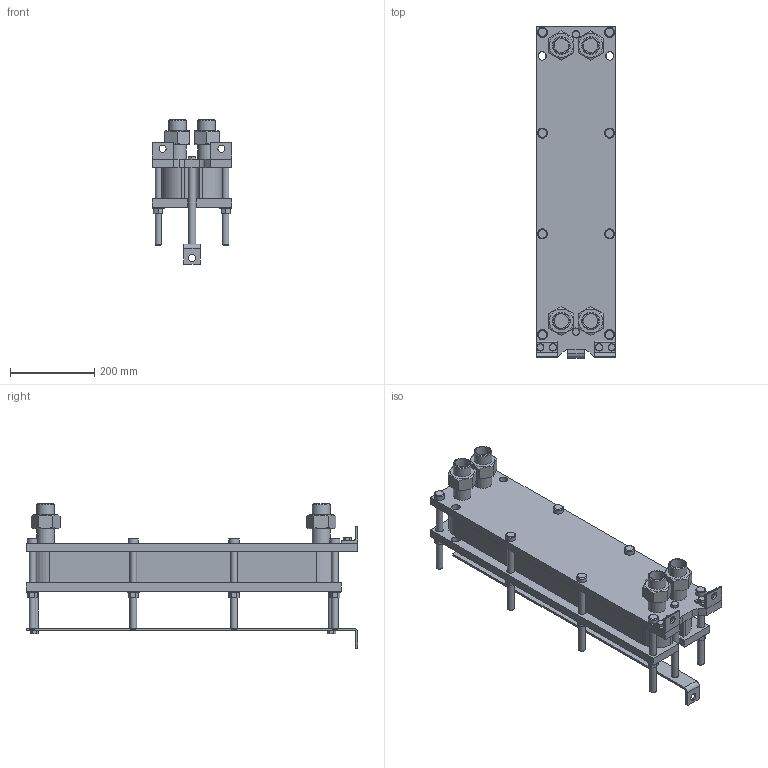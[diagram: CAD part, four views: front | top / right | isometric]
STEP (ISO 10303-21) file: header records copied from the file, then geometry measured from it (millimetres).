
FILE_DESCRIPTION(/* description */ (''),/* implementation_level */ '2;1');
FILE_NAME(/* name */ 'C:\Users\zhuro\Desktop\ENCO\TO\ЭН-008\ЭН-0,5-008-24-1.stp',/* time_stamp */ '2022-06-06T10:46:47+03:00',/* author */ ('zhuro'),/* organization */ (''),/* preprocessor_version */ 'ST-DEVELOPER v18.1',/* originating_system */ 'Autodesk Inventor 2022',/* authorisation */ '');
FILE_SCHEMA (('AUTOMOTIVE_DESIGN { 1 0 10303 214 3 1 1 }'));
Length unit declared in the file: millimetre
Products named in the file (1): ЭН-0,5-008-24-1
Bounding box: 190 x 790 x 344.2 mm (x, y, z)
Volume: 14234700.4 mm3; surface area: 1378653.7 mm2
Topology: 40 solids, 40 shells, 428 faces, 924 edges, 606 vertices
Faces by surface type: plane 273, cylinder 109, cone 40, torus 6
Full cylindrical faces by diameter (mm): 12 x6, 14 x2, 16 x20, 17 x8, 18 x19, 20 x5, 24 x8, 28 x8, 34.3 x8, 42.3 x8
Entity records: 15843 total; most frequent: CARTESIAN_POINT 5991, DIRECTION 1984, ORIENTED_EDGE 1848, EDGE_CURVE 924, AXIS2_PLACEMENT_3D 715, VERTEX_POINT 606, LINE 554, VECTOR 554
